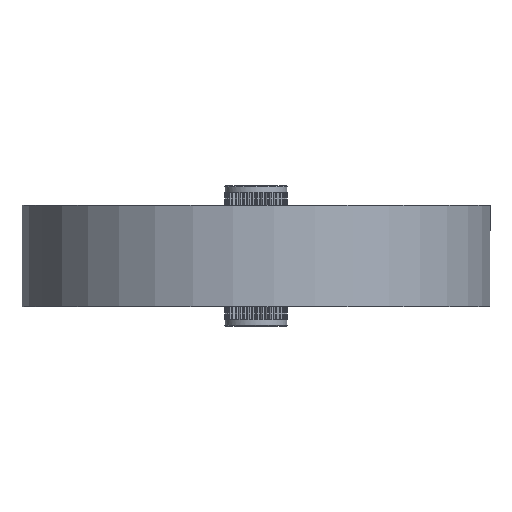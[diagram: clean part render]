
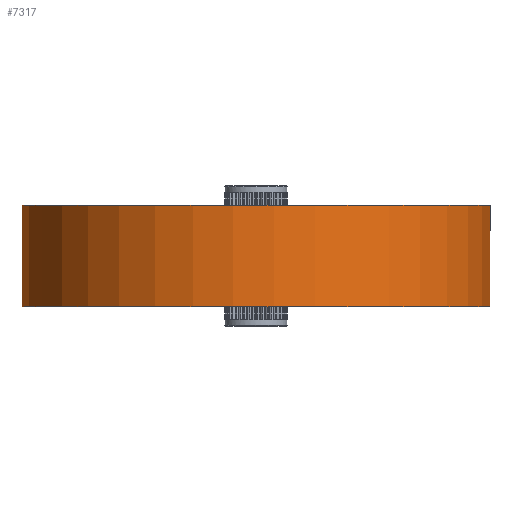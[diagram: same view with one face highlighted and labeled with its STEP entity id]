
A CAD part, front view. The second image highlights one B-rep face of the part: STEP entity #7317.
In plain terms, the highlighted cylindrical face has radius 30 mm (diameter 60 mm), a full revolution.
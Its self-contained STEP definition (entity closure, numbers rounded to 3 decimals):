
#4558=CARTESIAN_POINT('',(16.964,-24.743,8.856));
#4559=VERTEX_POINT('',#4558);
#4560=CARTESIAN_POINT('',(0.0,0.0,8.856));
#4561=DIRECTION('',(0.0,0.0,1.0));
#4562=DIRECTION('',(-0.565,0.825,0.0));
#4563=AXIS2_PLACEMENT_3D('',#4560,#4561,#4562);
#4564=CIRCLE('',#4563,30.);
#4565=EDGE_CURVE('',#4559,#4559,#4564,.T.);
#6100=CARTESIAN_POINT('',(16.964,-24.743,-4.064));
#6101=VERTEX_POINT('',#6100);
#6102=CARTESIAN_POINT('',(0.0,0.0,-4.064));
#6103=DIRECTION('',(0.0,0.0,-1.0));
#6104=DIRECTION('',(-0.565,0.825,0.0));
#6105=AXIS2_PLACEMENT_3D('',#6102,#6103,#6104);
#6106=CIRCLE('',#6105,30.);
#6107=EDGE_CURVE('',#6101,#6101,#6106,.T.);
#7306=CARTESIAN_POINT('',(0.0,0.0,-4.064));
#7307=DIRECTION('',(0.0,0.0,1.0));
#7308=DIRECTION('',(-0.565,0.825,0.0));
#7309=AXIS2_PLACEMENT_3D('',#7306,#7307,#7308);
#7310=CYLINDRICAL_SURFACE('',#7309,30.);
#7311=ORIENTED_EDGE('',*,*,#4565,.F.);
#7312=EDGE_LOOP('',(#7311));
#7313=FACE_OUTER_BOUND('',#7312,.T.);
#7314=ORIENTED_EDGE('',*,*,#6107,.F.);
#7315=EDGE_LOOP('',(#7314));
#7316=FACE_BOUND('',#7315,.T.);
#7317=ADVANCED_FACE('',(#7313,#7316),#7310,.T.);
